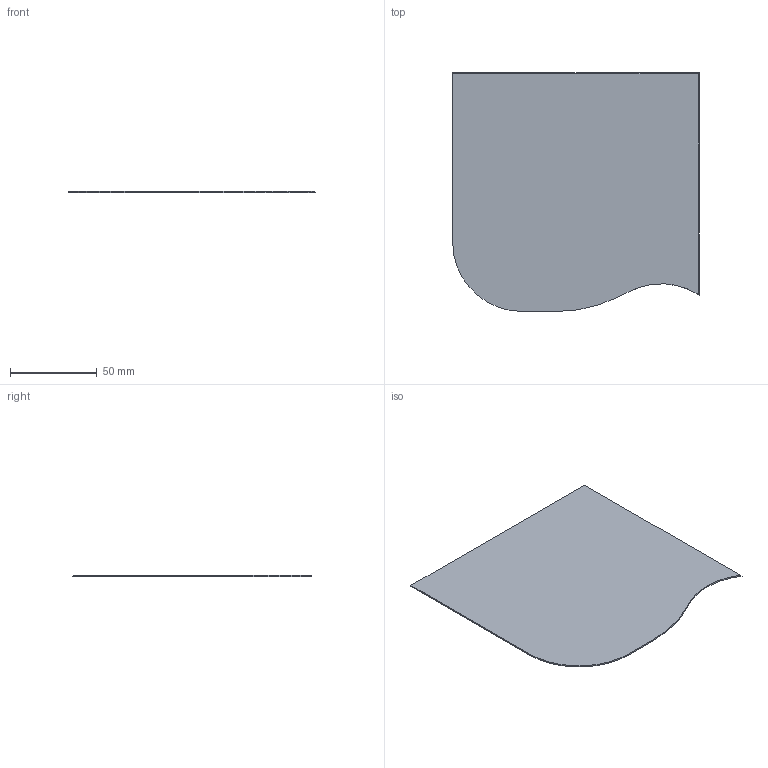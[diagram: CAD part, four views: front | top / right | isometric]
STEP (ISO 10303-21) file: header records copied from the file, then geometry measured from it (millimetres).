
FILE_DESCRIPTION(('STEP AP203'), '1');
FILE_NAME('麧罻 1-2', '', ('UNSPECIFIED'), ('UNSPECIFIED'), 'ASCON STEP Converter 1.3', 'ASCON Math Kernel', '');
FILE_SCHEMA(('CONFIG_CONTROL_DESIGN'));
Length unit declared in the file: millimetre
Bounding box: 141.9 x 137.4 x 0.8 mm (x, y, z)
Volume: 14658.3 mm3; surface area: 37153.6 mm2
Topology: 1 solids, 1 shells, 10 faces, 24 edges, 16 vertices
Faces by surface type: plane 7, cylinder 3
Entity records: 418 total; most frequent: CARTESIAN_POINT 54, DIRECTION 51, ORIENTED_EDGE 48, EDGE_CURVE 24, AXIS2_PLACEMENT_3D 17, LINE 17, VECTOR 17, VERTEX_POINT 16
